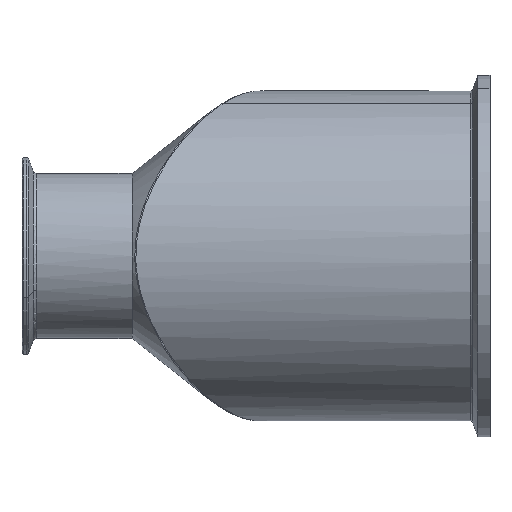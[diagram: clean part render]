
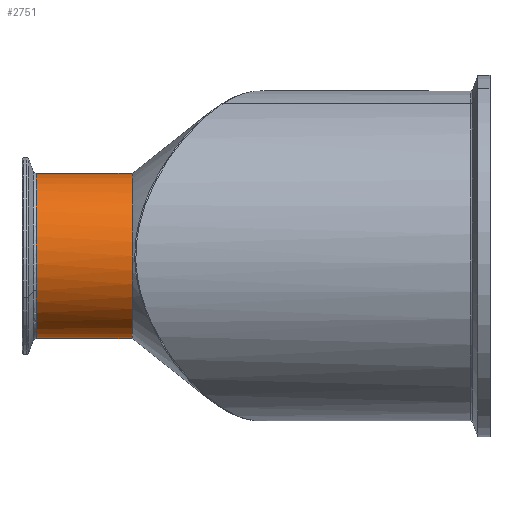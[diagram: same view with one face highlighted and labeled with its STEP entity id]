
A CAD part, front view. The second image highlights one B-rep face of the part: STEP entity #2751.
In plain terms, the highlighted cylindrical face has radius 38.1 mm (diameter 76.2 mm), a partial arc.
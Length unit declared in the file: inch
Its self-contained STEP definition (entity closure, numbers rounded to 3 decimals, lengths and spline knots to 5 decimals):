
#169 = DIRECTION ( 'NONE',  ( 1., 0., 0. ) ) ;
#489 = EDGE_CURVE ( 'NONE', #2724, #3599, #1513, .T. ) ;
#529 = CARTESIAN_POINT ( 'NONE',  ( -4.70035, -1.45591, 1.5 ) ) ;
#677 = CARTESIAN_POINT ( 'NONE',  ( -4.70035, -1.45591, -1.5 ) ) ;
#798 = VERTEX_POINT ( 'NONE', #4269 ) ;
#1490 = DIRECTION ( 'NONE',  ( 1., 0., 0. ) ) ;
#1513 = LINE ( 'NONE', #677, #2308 ) ;
#1783 = VERTEX_POINT ( 'NONE', #3459 ) ;
#1873 = CARTESIAN_POINT ( 'NONE',  ( -7.48765, -1.45591, 0. ) ) ;
#1892 = AXIS2_PLACEMENT_3D ( 'NONE', #3869, #1490, #4195 ) ;
#1924 = ORIENTED_EDGE ( 'NONE', *, *, #489, .T. ) ;
#1938 = CARTESIAN_POINT ( 'NONE',  ( -7.48765, -1.45591, 0. ) ) ;
#1951 = CIRCLE ( 'NONE', #3173, 1.5 ) ;
#2011 = CARTESIAN_POINT ( 'NONE',  ( -5.75, -1.45591, -1.5 ) ) ;
#2015 = ORIENTED_EDGE ( 'NONE', *, *, #2389, .F. ) ;
#2202 = CARTESIAN_POINT ( 'NONE',  ( -5.75, -1.45591, 0. ) ) ;
#2278 = DIRECTION ( 'NONE',  ( 0., -0.909, -0.418 ) ) ;
#2308 = VECTOR ( 'NONE', #3393, 39.37008 ) ;
#2389 = EDGE_CURVE ( 'NONE', #798, #2637, #4103, .T. ) ;
#2547 = DIRECTION ( 'NONE',  ( 0., 0., -1. ) ) ;
#2555 = CARTESIAN_POINT ( 'NONE',  ( -7.48765, -1.45591, -1.5 ) ) ;
#2604 = ORIENTED_EDGE ( 'NONE', *, *, #3776, .F. ) ;
#2637 = VERTEX_POINT ( 'NONE', #2903 ) ;
#2724 = VERTEX_POINT ( 'NONE', #2555 ) ;
#2751 = ADVANCED_FACE ( 'NONE', ( #3608 ), #4075, .T. ) ;
#2895 = ORIENTED_EDGE ( 'NONE', *, *, #3355, .T. ) ;
#2903 = CARTESIAN_POINT ( 'NONE',  ( -5.75, -1.45591, 1.5 ) ) ;
#3173 = AXIS2_PLACEMENT_3D ( 'NONE', #2202, #169, #2547 ) ;
#3199 = VECTOR ( 'NONE', #3228, 39.37008 ) ;
#3228 = DIRECTION ( 'NONE',  ( 1., 0., 0. ) ) ;
#3323 = EDGE_LOOP ( 'NONE', ( #2015, #2895, #3530, #1924, #2604 ) ) ;
#3355 = EDGE_CURVE ( 'NONE', #798, #1783, #3801, .T. ) ;
#3393 = DIRECTION ( 'NONE',  ( 1., 0., 0. ) ) ;
#3459 = CARTESIAN_POINT ( 'NONE',  ( -7.48765, -2.81876, -0.6266 ) ) ;
#3530 = ORIENTED_EDGE ( 'NONE', *, *, #4310, .T. ) ;
#3566 = DIRECTION ( 'NONE',  ( 0., -0.909, -0.418 ) ) ;
#3599 = VERTEX_POINT ( 'NONE', #2011 ) ;
#3608 = FACE_OUTER_BOUND ( 'NONE', #3323, .T. ) ;
#3776 = EDGE_CURVE ( 'NONE', #2637, #3599, #1951, .T. ) ;
#3801 = CIRCLE ( 'NONE', #4059, 1.5 ) ;
#3869 = CARTESIAN_POINT ( 'NONE',  ( -4.70035, -1.45591, 0. ) ) ;
#3903 = DIRECTION ( 'NONE',  ( 1., 0., 0. ) ) ;
#4059 = AXIS2_PLACEMENT_3D ( 'NONE', #1938, #4316, #2278 ) ;
#4061 = AXIS2_PLACEMENT_3D ( 'NONE', #1873, #3903, #3566 ) ;
#4075 = CYLINDRICAL_SURFACE ( 'NONE', #1892, 1.5 ) ;
#4103 = LINE ( 'NONE', #529, #3199 ) ;
#4195 = DIRECTION ( 'NONE',  ( 0., 0., -1. ) ) ;
#4265 = CIRCLE ( 'NONE', #4061, 1.5 ) ;
#4269 = CARTESIAN_POINT ( 'NONE',  ( -7.48765, -1.45591, 1.5 ) ) ;
#4310 = EDGE_CURVE ( 'NONE', #1783, #2724, #4265, .T. ) ;
#4316 = DIRECTION ( 'NONE',  ( 1., 0., 0. ) ) ;
